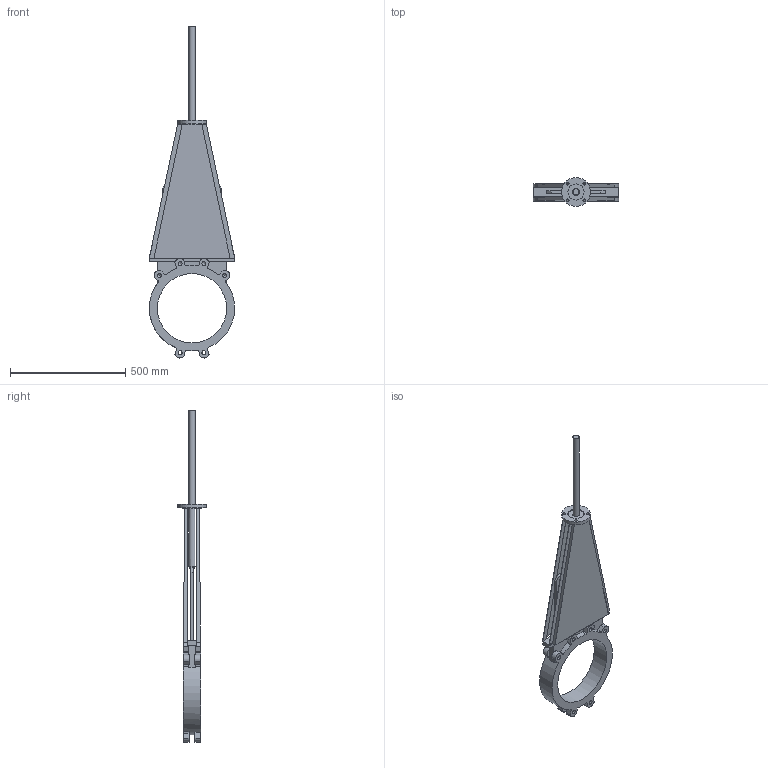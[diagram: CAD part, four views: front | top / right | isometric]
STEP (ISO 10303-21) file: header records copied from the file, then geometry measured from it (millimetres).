
FILE_DESCRIPTION(('STEP AP203'), '1');
FILE_NAME('K21GVA_DN300', '', ('UNSPECIFIED'), ('UNSPECIFIED'), 'ASCON STEP Converter 1.6', 'ASCON Math Kernel', '');
FILE_SCHEMA(('CONFIG_CONTROL_DESIGN'));
Length unit declared in the file: millimetre
Bounding box: 370 x 125 x 1438.7 mm (x, y, z)
Volume: 5832980.5 mm3; surface area: 1234132.4 mm2
Topology: 1 solids, 1 shells, 199 faces, 562 edges, 365 vertices
Faces by surface type: plane 124, cylinder 66, cone 9
Full cylindrical faces by diameter (mm): 12 x4, 17.294 x12, 28 x2, 70 x1, 80 x1, 125 x1, 300 x1
Entity records: 7886 total; most frequent: DIRECTION 1088, CARTESIAN_POINT 1080, ORIENTED_EDGE 1046, EDGE_CURVE 523, AXIS2_PLACEMENT_3D 365, LINE 358, VECTOR 358, VERTEX_POINT 357
